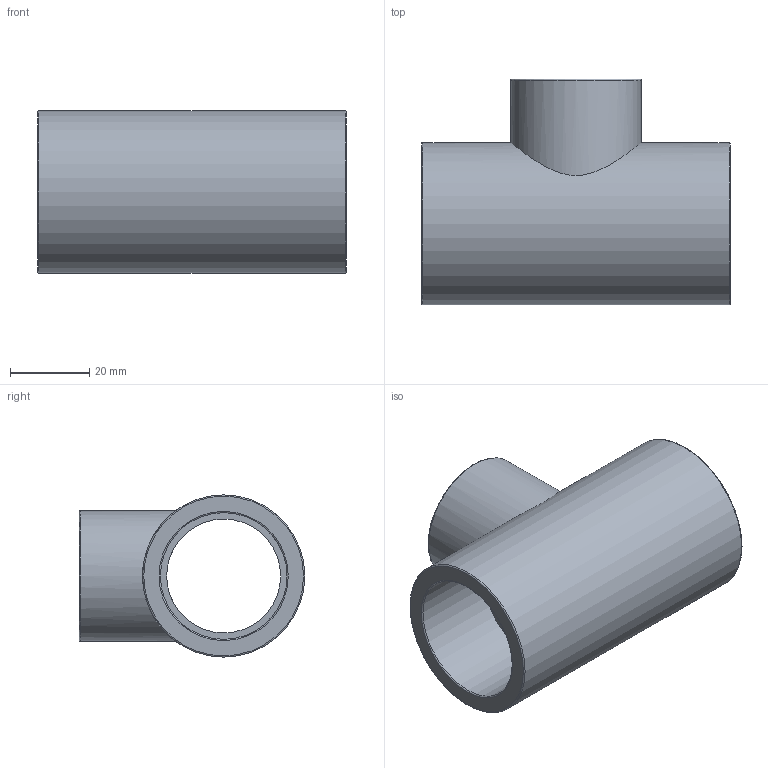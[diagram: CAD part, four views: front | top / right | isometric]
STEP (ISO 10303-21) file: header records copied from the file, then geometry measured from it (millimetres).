
FILE_DESCRIPTION(/* description */ ('PLASSON REDUCER TEE - CEMENT PVC 32-25-32'),/* implementation_level */ '2;1');
FILE_NAME(/* name */ 'C:\Dropbox\KIMPROJECTS-Inventor\99-16-3568-Processing\PVC Catalog 2017\051400\051400032025.ipt.stp',/* time_stamp */ '2017-12-07T16:00:10+02:00',/* author */ ('KIM'),/* organization */ (''),/* preprocessor_version */ 'ST-DEVELOPER v15.6',/* originating_system */ 'Autodesk Inventor 2015',/* authorisation */ '');
FILE_SCHEMA (('AUTOMOTIVE_DESIGN { 1 0 10303 214 3 1 1 }'));
Length unit declared in the file: millimetre
Products named in the file (1): 051400032025
Bounding box: 78 x 57 x 41 mm (x, y, z)
Volume: 49643.7 mm3; surface area: 21818.5 mm2
Topology: 1 solids, 1 shells, 19 faces, 39 edges, 24 vertices
Faces by surface type: cylinder 7, torus 6, plane 6
Full cylindrical faces by diameter (mm): 22.5 x1, 25 x1, 28.8 x1, 32 x2, 33 x1, 41 x1
Entity records: 534 total; most frequent: CARTESIAN_POINT 174, DIRECTION 76, EDGE_LOOP 40, ORIENTED_EDGE 40, AXIS2_PLACEMENT_3D 38, FACE_BOUND 21, VERTEX_POINT 20, EDGE_CURVE 20
